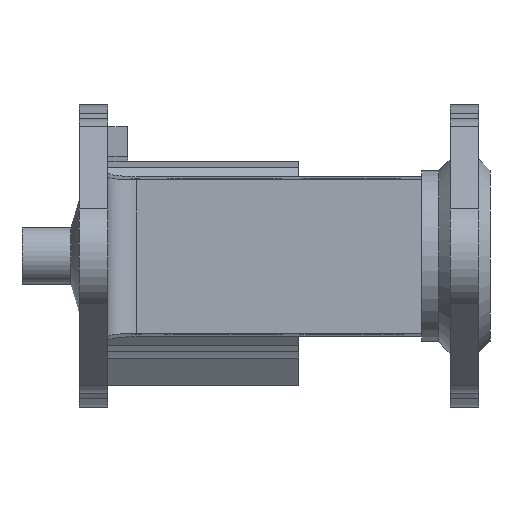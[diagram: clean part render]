
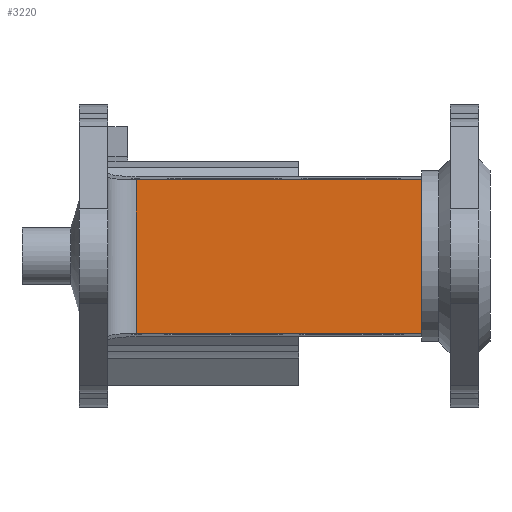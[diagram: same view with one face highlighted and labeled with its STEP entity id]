
A CAD part, front view. The second image highlights one B-rep face of the part: STEP entity #3220.
In plain terms, the highlighted planar face has unit normal (0, -1, 0).
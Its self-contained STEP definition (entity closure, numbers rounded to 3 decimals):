
#419=FACE_OUTER_BOUND('',#607,.T.);
#607=EDGE_LOOP('',(#2217,#2218,#2219,#2220,#2221,#2222,#2223,#2224));
#881=LINE('',#4564,#1120);
#883=LINE('',#4579,#1122);
#884=LINE('',#4581,#1123);
#885=LINE('',#4583,#1124);
#886=LINE('',#4585,#1125);
#887=LINE('',#4587,#1126);
#888=LINE('',#4589,#1127);
#889=LINE('',#4590,#1128);
#1120=VECTOR('',#3769,10.);
#1122=VECTOR('',#3773,10.);
#1123=VECTOR('',#3774,10.);
#1124=VECTOR('',#3775,10.);
#1125=VECTOR('',#3776,10.);
#1126=VECTOR('',#3777,10.);
#1127=VECTOR('',#3778,10.);
#1128=VECTOR('',#3779,10.);
#1367=VERTEX_POINT('',#4552);
#1368=VERTEX_POINT('',#4563);
#1370=VERTEX_POINT('',#4578);
#1371=VERTEX_POINT('',#4580);
#1372=VERTEX_POINT('',#4582);
#1373=VERTEX_POINT('',#4584);
#1374=VERTEX_POINT('',#4586);
#1375=VERTEX_POINT('',#4588);
#1702=EDGE_CURVE('',#1367,#1368,#881,.T.);
#1705=EDGE_CURVE('',#1367,#1370,#883,.T.);
#1706=EDGE_CURVE('',#1371,#1370,#884,.T.);
#1707=EDGE_CURVE('',#1372,#1371,#885,.T.);
#1708=EDGE_CURVE('',#1373,#1372,#886,.T.);
#1709=EDGE_CURVE('',#1374,#1373,#887,.T.);
#1710=EDGE_CURVE('',#1375,#1374,#888,.T.);
#1711=EDGE_CURVE('',#1368,#1375,#889,.T.);
#2217=ORIENTED_EDGE('',*,*,#1702,.F.);
#2218=ORIENTED_EDGE('',*,*,#1705,.T.);
#2219=ORIENTED_EDGE('',*,*,#1706,.F.);
#2220=ORIENTED_EDGE('',*,*,#1707,.F.);
#2221=ORIENTED_EDGE('',*,*,#1708,.F.);
#2222=ORIENTED_EDGE('',*,*,#1709,.F.);
#2223=ORIENTED_EDGE('',*,*,#1710,.F.);
#2224=ORIENTED_EDGE('',*,*,#1711,.F.);
#3141=PLANE('',#3438);
#3220=ADVANCED_FACE('',(#419),#3141,.T.);
#3438=AXIS2_PLACEMENT_3D('',#4577,#3771,#3772);
#3769=DIRECTION('',(0.,0.,-1.));
#3771=DIRECTION('center_axis',(0.,-1.,
0.));
#3772=DIRECTION('ref_axis',(0.,0.,
1.));
#3773=DIRECTION('',(-1.,0.,0.));
#3774=DIRECTION('',(0.,0.,1.));
#3775=DIRECTION('',(-1.,0.,0.));
#3776=DIRECTION('',(0.,0.,1.));
#3777=DIRECTION('',(1.,0.,0.));
#3778=DIRECTION('',(0.,0.,1.));
#3779=DIRECTION('',(-1.,0.,0.));
#4552=CARTESIAN_POINT('',(36.5,116.394,21.237));
#4563=CARTESIAN_POINT('',(36.5,116.406,-5.668));
#4564=CARTESIAN_POINT('',(36.5,116.403,1.111));
#4577=CARTESIAN_POINT('Origin',(41.5,116.406,-5.668));
#4578=CARTESIAN_POINT('',(-23.5,116.394,21.237));
#4579=CARTESIAN_POINT('',(41.5,116.394,21.237));
#4580=CARTESIAN_POINT('',(-23.5,116.394,21.236));
#4581=CARTESIAN_POINT('',(-23.5,116.394,21.237));
#4582=CARTESIAN_POINT('',(-13.5,116.394,21.236));
#4583=CARTESIAN_POINT('',(-23.5,116.394,21.236));
#4584=CARTESIAN_POINT('',(-13.5,116.406,-5.666));
#4585=CARTESIAN_POINT('',(-13.5,116.403,1.111));
#4586=CARTESIAN_POINT('',(-23.5,116.406,-5.666));
#4587=CARTESIAN_POINT('',(-23.5,116.406,-5.666));
#4588=CARTESIAN_POINT('',(-23.5,116.406,-5.668));
#4589=CARTESIAN_POINT('',(-23.5,116.394,21.237));
#4590=CARTESIAN_POINT('',(41.5,116.406,-5.668));
